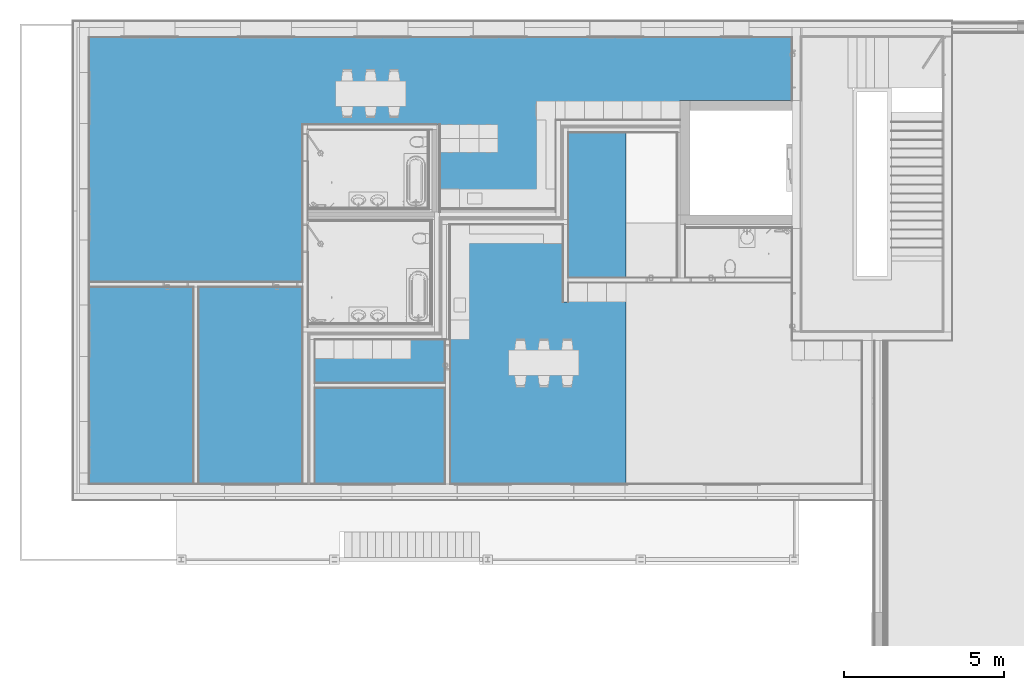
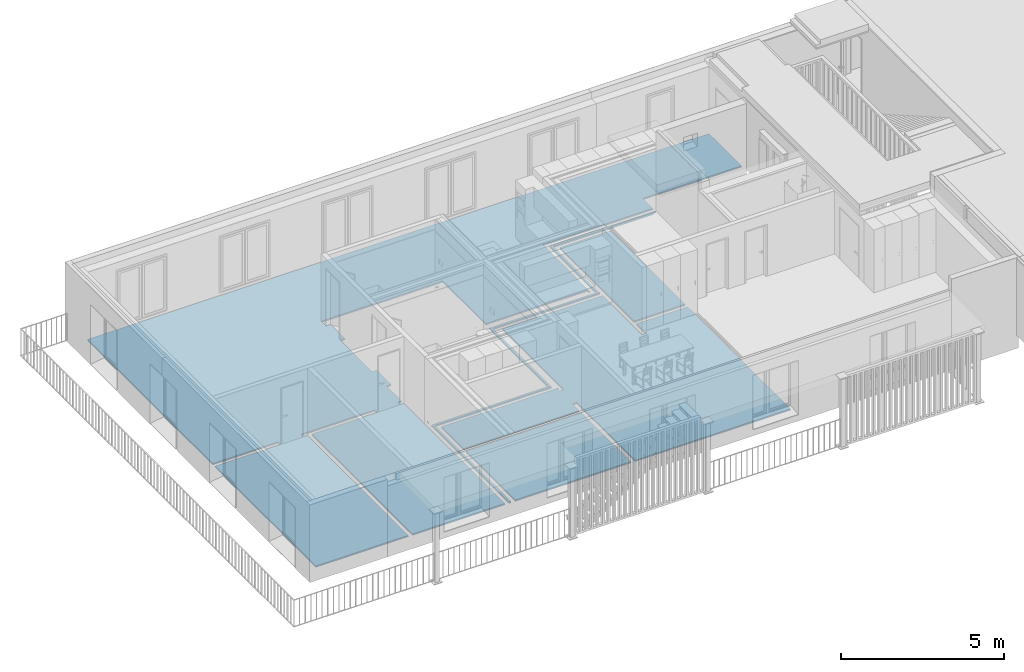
# One storey, part 7 of 34: 1 building element part, 1 element without a shape of its own.
"""IFC4 building model written with IfcOpenShell, lengths in millimetres."""

from ifc_helpers import new_model, entity, si_unit, converted_unit, derived_unit, direction, frame, origin_with_axes, place, context, subcontext, project, spatial, polygons, material, type_object, element, aggregate, save


model = new_model("IFC4")

# Units and contexts
model_context = context("Model", 3, precision=0.01, world=origin_with_axes(), true_north=direction((0.0, 1.0)))
body_context = subcontext(model_context, "Body", "Model", "MODEL_VIEW")
ifc_project = project(units=[si_unit("LENGTHUNIT", "METRE", prefix="MILLI"), si_unit("AREAUNIT", "SQUARE_METRE"), si_unit("VOLUMEUNIT", "CUBIC_METRE"), converted_unit("PLANEANGLEUNIT", "DEGREE", entity("IfcPlaneAngleMeasure", 0.0174532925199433), si_unit("PLANEANGLEUNIT", "RADIAN"), dimensions=[0, 0, 0, 0, 0, 0, 0]), converted_unit("TIMEUNIT", "Year", entity("IfcTimeMeasure", 31557600.0), si_unit("TIMEUNIT", "SECOND"), dimensions=[0, 0, 1, 0, 0, 0, 0]), si_unit("MASSUNIT", "GRAM", prefix="KILO"), si_unit("THERMODYNAMICTEMPERATUREUNIT", "DEGREE_CELSIUS"), si_unit("LUMINOUSINTENSITYUNIT", "LUMEN"), si_unit("ENERGYUNIT", "JOULE", prefix="MEGA"), derived_unit("THERMALCONDUCTANCEUNIT", [(si_unit("POWERUNIT", "WATT"), 1), (si_unit("LENGTHUNIT", "METRE"), -1), (si_unit("THERMODYNAMICTEMPERATUREUNIT", "KELVIN"), -1)]), derived_unit("SPECIFICHEATCAPACITYUNIT", [(si_unit("ENERGYUNIT", "JOULE"), 1), (si_unit("MASSUNIT", "GRAM", prefix="KILO"), -1), (si_unit("THERMODYNAMICTEMPERATUREUNIT", "KELVIN"), -1)]), derived_unit("MASSDENSITYUNIT", [(si_unit("MASSUNIT", "GRAM", prefix="KILO"), 1), (si_unit("VOLUMEUNIT", "CUBIC_METRE"), -1)])], contexts=[model_context])

# Site, building, storey
site_placement = place(None, origin_with_axes())
site = spatial("IfcSite", under=ifc_project, at=site_placement, Name="Gelände", CompositionType="ELEMENT")
building_placement = place(site_placement, origin_with_axes())
building = spatial("IfcBuilding", under=site, at=building_placement, Name="Gebäude", CompositionType="ELEMENT")
storey_placement = place(building_placement, frame((0.0, 0.0, 5799.999999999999), z_axis=(0.0, 0.0, 1.0), x_axis=(1.0, 0.0, 0.0)))
storey = spatial("IfcBuildingStorey", under=building, at=storey_placement, Name="2.OG", CompositionType="ELEMENT", Elevation=5800.0)

# Covering, building element part
covering_type = type_object("IfcCoveringType", Name="Bodenaufbau Typ 01 150", PredefinedType="NOTDEFINED")
covering_placement = place(storey_placement, frame((-6561.004181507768, 23457.59674077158, 0.0), z_axis=(0.0, 0.0, 1.0), x_axis=(1.0, 0.0, 0.0)))
covering = element("IfcCovering", 1, at=covering_placement, inside=storey, type_object=covering_type, Name="Decke-007", PredefinedType="NOTDEFINED")
ifc_material = material(Name="Unterlagsboden")
building_element_part_placement = place(covering_placement, origin_with_axes())
building_element_part = element("IfcBuildingElementPart", 2, at=building_element_part_placement, material=ifc_material, Name="Unterlagsboden", PredefinedType="NOTDEFINED", context=body_context, shape_type="Tessellation", body=[
    polygons([(16790.00162627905, 11000.00054054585, 80.00000000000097), (16790.00162627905, 11000.00054054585, 135.0000000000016), (16790.00162627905, 6450.000540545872, 135.0000000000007), (16790.00162627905, 6450.000540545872, 80.00000000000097), (14980.00162627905, 11000.00054054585, 135.0000000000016), (14980.00162627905, 11000.00054054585, 80.00000000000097), (14980.00162627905, 8275.000540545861, 135.0000000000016), (14980.00162627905, 8125.000540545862, 135.0000000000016), (14980.00162627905, 6450.000540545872, 135.0000000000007), (14980.00162627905, 6450.000540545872, 80.00000000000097), (14980.00162627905, 8125.000540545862, 80.00000000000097), (14980.00162627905, 8275.000540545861, 80.00000000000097)], [[[1, 2, 3, 4]], [[5, 2, 1, 6]], [[2, 5, 7, 8, 9, 3]], [[9, 10, 4, 3]], [[6, 1, 4, 10, 11, 12]], [[5, 6, 12, 7]], [[7, 12, 11, 8]], [[8, 11, 10, 9]]], closed=True),
    polygons([(10621.77773059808, 8610.000540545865, 135.0000000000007), (10621.77773059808, 8620.000540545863, 135.0000000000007), (10611.77773059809, 8620.000540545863, 135.0000000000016), (10611.77773059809, 8610.000540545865, 135.0000000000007), (10621.77773059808, 8620.000540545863, 80.00000000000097), (10621.77773059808, 8610.000540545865, 80.00000000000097), (10611.77773059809, 8620.000540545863, 80.00000000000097), (10611.77773059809, 8610.000540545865, 80.00000000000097)], [[[1, 2, 3, 4]], [[5, 2, 1, 6]], [[2, 5, 7, 3]], [[3, 7, 8, 4]], [[6, 1, 4, 8]], [[5, 6, 8, 7]]], closed=True),
    polygons([(3420.000000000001, 6167.487519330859, 135.0000000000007), (3420.000000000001, 0.0, 135.0000000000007), (6683.999999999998, 0.0, 135.0000000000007), (6683.999999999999, 4756.776644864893, 135.0000000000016), (6683.999999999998, 4906.776644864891, 135.0000000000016), (6683.999999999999, 6167.487519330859, 135.0000000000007), (6534.0, 6167.487519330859, 135.0000000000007), (6534.0, 6317.487519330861, 135.0000000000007), (6683.999999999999, 6317.487519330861, 135.0000000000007), (6683.999999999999, 7245.000540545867, 135.0000000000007), (6843.999999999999, 7245.000540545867, 135.0000000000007), (6843.999999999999, 8135.000540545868, 135.0000000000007), (6683.999999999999, 8135.000540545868, 135.0000000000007), (6684.0, 10081.46696329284, 135.0000000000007), (6844.0, 10081.46696329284, 135.0000000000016), (6844.0, 10971.46696329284, 135.0000000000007), (6684.0, 10971.46696329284, 135.0000000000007), (6684.0, 11236.46696329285, 135.0000000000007), (6834.000000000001, 11236.46696329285, 135.0000000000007), (10876.77773059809, 11236.46696329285, 135.0000000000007), (10876.77773059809, 11246.46696329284, 135.0000000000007), (10981.77773059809, 11246.46696329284, 135.0000000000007), (10981.77773059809, 8610.000540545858, 135.0000000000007), (14590.00162627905, 8610.000540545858, 135.0000000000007), (14590.00162627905, 8505.000540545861, 135.0000000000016), (14600.00162627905, 8505.000540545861, 135.0000000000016), (14600.00162627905, 11380.00054054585, 135.0000000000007), (14750.00162627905, 11380.00054054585, 135.0000000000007), (18490.00162627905, 11380.00054054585, 135.0000000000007), (18490.00162627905, 11990.00054054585, 135.0000000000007), (21980.00162627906, 11990.00054054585, 135.0000000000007), (21980.00162627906, 13980.00054054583, 135.0000000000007), (0.0, 13980.00054054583, 135.0000000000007), (0.0, 6317.487519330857, 135.0000000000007), (2310.000000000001, 6317.487519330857, 135.0000000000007), (2310.000000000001, 6167.487519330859, 135.0000000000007), (0.0, 6167.487519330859, 135.0000000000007), (0.0, 0.0, 135.0000000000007), (3270.0, 0.0, 135.0000000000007), (3270.0, 6167.487519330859, 135.0000000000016), (3110.000000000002, 6167.487519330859, 135.0000000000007), (3110.000000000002, 6317.487519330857, 135.0000000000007), (5733.999999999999, 6317.487519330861, 135.0000000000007), (5733.999999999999, 6167.487519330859, 135.0000000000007), (3420.000000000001, 6167.487519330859, 80.00000000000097), (3420.000000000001, 0.0, 80.00000000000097), (6683.999999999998, 0.0, 80.00000000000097), (6683.999999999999, 4756.776644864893, 80.00000000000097), (6683.999999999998, 4906.776644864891, 80.00000000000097), (6683.999999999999, 6167.487519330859, 80.00000000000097), (6534.0, 6167.487519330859, 80.00000000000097), (6534.0, 6317.487519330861, 80.00000000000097), (6683.999999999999, 6317.487519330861, 80.00000000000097), (6683.999999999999, 7245.000540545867, 80.00000000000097), (6843.999999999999, 7245.000540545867, 80.00000000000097), (6843.999999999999, 8135.000540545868, 80.00000000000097), (6683.999999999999, 8135.000540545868, 80.00000000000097), (6684.0, 10081.46696329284, 80.00000000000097), (6844.0, 10081.46696329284, 80.00000000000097), (6844.0, 10971.46696329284, 80.00000000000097), (6684.0, 10971.46696329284, 80.00000000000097), (6684.0, 11236.46696329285, 80.00000000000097), (6834.000000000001, 11236.46696329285, 80.00000000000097), (10876.77773059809, 11236.46696329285, 80.00000000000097), (10876.77773059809, 11246.46696329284, 80.00000000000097), (10981.77773059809, 11246.46696329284, 80.00000000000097), (10981.77773059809, 8610.000540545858, 80.00000000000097), (14590.00162627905, 8610.000540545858, 80.00000000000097), (14590.00162627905, 8505.000540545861, 80.00000000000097), (14600.00162627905, 8505.000540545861, 80.00000000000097), (14600.00162627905, 11380.00054054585, 80.00000000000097), (14750.00162627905, 11380.00054054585, 80.00000000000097), (18490.00162627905, 11380.00054054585, 80.00000000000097), (18490.00162627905, 11990.00054054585, 80.00000000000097), (21980.00162627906, 11990.00054054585, 80.00000000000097), (21980.00162627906, 13980.00054054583, 80.00000000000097), (0.0, 13980.00054054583, 80.00000000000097), (0.0, 6317.487519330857, 80.00000000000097), (2310.000000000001, 6317.487519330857, 80.00000000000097), (2310.000000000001, 6167.487519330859, 80.00000000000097), (0.0, 6167.487519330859, 80.00000000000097), (0.0, 0.0, 80.00000000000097), (3270.0, 0.0, 80.00000000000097), (3270.0, 6167.487519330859, 80.00000000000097), (3110.000000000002, 6167.487519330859, 80.00000000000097), (3110.000000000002, 6317.487519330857, 80.00000000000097), (5733.999999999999, 6317.487519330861, 80.00000000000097), (5733.999999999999, 6167.487519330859, 80.00000000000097)], [[[1, 2, 3, 4, 5, 6, 7, 8, 9, 10, 11, 12, 13, 14, 15, 16, 17, 18, 19, 20, 21, 22, 23, 24, 25, 26, 27, 28, 29, 30, 31, 32, 33, 34, 35, 36, 37, 38, 39, 40, 41, 42, 43, 44]], [[2, 1, 45, 46]], [[2, 46, 47, 3]], [[48, 4, 3, 47]], [[4, 48, 49, 5]], [[5, 49, 50, 6]], [[6, 50, 51, 7]], [[8, 7, 51, 52]], [[53, 9, 8, 52]], [[10, 9, 53, 54]], [[11, 10, 54, 55]], [[11, 55, 56, 12]], [[57, 13, 12, 56]], [[14, 13, 57, 58]], [[15, 14, 58, 59]], [[15, 59, 60, 16]], [[61, 17, 16, 60]], [[18, 17, 61, 62]], [[63, 19, 18, 62]], [[64, 20, 19, 63]], [[21, 20, 64, 65]], [[66, 22, 21, 65]], [[23, 22, 66, 67]], [[23, 67, 68, 24]], [[24, 68, 69, 25]], [[25, 69, 70, 26]], [[26, 70, 71, 27]], [[72, 28, 27, 71]], [[28, 72, 73, 29]], [[29, 73, 74, 30]], [[74, 75, 31, 30]], [[75, 76, 32, 31]], [[76, 77, 33, 32]], [[78, 34, 33, 77]], [[35, 34, 78, 79]], [[36, 35, 79, 80]], [[37, 36, 80, 81]], [[37, 81, 82, 38]], [[83, 39, 38, 82]], [[84, 40, 39, 83]], [[40, 84, 85, 41]], [[42, 41, 85, 86]], [[43, 42, 86, 87]], [[44, 43, 87, 88]], [[45, 1, 44, 88]], [[46, 45, 88, 87, 86, 85, 84, 83, 82, 81, 80, 79, 78, 77, 76, 75, 74, 73, 72, 71, 70, 69, 68, 67, 66, 65, 64, 63, 62, 61, 60, 59, 58, 57, 56, 55, 54, 53, 52, 51, 50, 49, 48, 47]]], closed=True),
    polygons([(10726.77773059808, 11076.46696329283, 135.0000000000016), (10726.77773059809, 11086.46696329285, 135.0000000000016), (10611.77773059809, 11086.46696329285, 135.0000000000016), (10611.77773059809, 11076.46696329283, 135.0000000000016), (10726.77773059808, 11076.46696329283, 80.00000000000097), (10726.77773059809, 11086.46696329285, 80.00000000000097), (10611.77773059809, 11086.46696329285, 80.00000000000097), (10611.77773059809, 11076.46696329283, 80.00000000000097)], [[[1, 2, 3, 4]], [[1, 5, 6, 2]], [[2, 6, 7, 3]], [[8, 4, 3, 7]], [[5, 1, 4, 8]], [[5, 8, 7, 6]]], closed=True),
    polygons([(10702.0, 8240.000540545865, 135.0000000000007), (10702.0, 8250.000540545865, 135.0000000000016), (10692.0, 8250.000540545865, 135.0000000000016), (10692.0, 8240.000540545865, 135.0000000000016), (10702.0, 8250.000540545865, 80.00000000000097), (10702.0, 8240.000540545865, 80.00000000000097), (10692.0, 8250.000540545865, 80.00000000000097), (10692.0, 8240.000540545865, 80.00000000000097)], [[[1, 2, 3, 4]], [[5, 2, 1, 6]], [[2, 5, 7, 3]], [[8, 4, 3, 7]], [[6, 1, 4, 8]], [[5, 6, 8, 7]]], closed=True),
    polygons([(6903.99998159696, 0.0, 135.0000000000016), (6903.99998159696, 4526.776644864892, 135.0000000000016), (6903.99998159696, 4676.776644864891, 135.0000000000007), (11037.0, 4676.776644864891, 135.0000000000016), (11037.0, 8125.000540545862, 135.0000000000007), (11037.0, 8275.000540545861, 135.0000000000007), (14830.00162627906, 8275.000540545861, 135.0000000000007), (14830.00162627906, 11150.00054054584, 135.0000000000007), (14980.00162627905, 11150.00054054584, 135.0000000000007), (18385.00162627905, 11150.00054054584, 135.0000000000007), (18385.00162627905, 11190.00054054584, 135.0000000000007), (18490.00162627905, 11190.00054054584, 135.0000000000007), (18490.00162627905, 11230.00054054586, 135.0000000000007), (14750.00162627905, 11230.00054054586, 135.0000000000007), (14750.00162627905, 8355.000540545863, 135.0000000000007), (14600.00162627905, 8355.000540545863, 135.0000000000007), (10957.0, 8355.000540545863, 135.0000000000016), (10957.0, 4756.776644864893, 135.0000000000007), (10807.0, 4756.776644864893, 135.0000000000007), (6833.999999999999, 4756.776644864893, 135.0000000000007), (6833.999999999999, 0.0, 135.0000000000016), (6903.99998159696, 4526.776644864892, 80.00000000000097), (6903.99998159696, 0.0, 80.00000000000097), (6903.99998159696, 4676.776644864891, 80.00000000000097), (11037.0, 4676.776644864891, 80.00000000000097), (11037.0, 8125.000540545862, 80.00000000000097), (11037.0, 8275.000540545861, 80.00000000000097), (14830.00162627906, 8275.000540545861, 80.00000000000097), (14830.00162627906, 11150.00054054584, 80.00000000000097), (14980.00162627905, 11150.00054054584, 80.00000000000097), (18385.00162627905, 11150.00054054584, 80.00000000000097), (18385.00162627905, 11190.00054054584, 80.00000000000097), (18490.00162627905, 11190.00054054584, 80.00000000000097), (18490.00162627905, 11230.00054054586, 80.00000000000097), (14750.00162627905, 11230.00054054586, 80.00000000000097), (14750.00162627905, 8355.000540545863, 80.00000000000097), (14600.00162627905, 8355.000540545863, 80.00000000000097), (10957.0, 8355.000540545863, 80.00000000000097), (10957.0, 4756.776644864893, 80.00000000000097), (10807.0, 4756.776644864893, 80.00000000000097), (6833.999999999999, 4756.776644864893, 80.00000000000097), (6833.999999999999, 0.0, 80.00000000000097)], [[[1, 2, 3, 4, 5, 6, 7, 8, 9, 10, 11, 12, 13, 14, 15, 16, 17, 18, 19, 20, 21]], [[22, 2, 1, 23]], [[2, 22, 24, 3]], [[25, 4, 3, 24]], [[4, 25, 26, 5]], [[5, 26, 27, 6]], [[28, 7, 6, 27]], [[8, 7, 28, 29]], [[30, 9, 8, 29]], [[10, 9, 30, 31]], [[11, 10, 31, 32]], [[33, 12, 11, 32]], [[12, 33, 34, 13]], [[35, 14, 13, 34]], [[15, 14, 35, 36]], [[37, 16, 15, 36]], [[17, 16, 37, 38]], [[17, 38, 39, 18]], [[40, 19, 18, 39]], [[41, 20, 19, 40]], [[21, 20, 41, 42]], [[23, 1, 21, 42]], [[22, 23, 42, 41, 40, 39, 38, 37, 36, 35, 34, 33, 32, 31, 30, 29, 28, 27, 26, 25, 24]]], closed=True),
    polygons([(11142.0, 3010.000000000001, 80.00000000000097), (11142.0, 3010.000000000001, 135.0000000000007), (11142.0, 0.0, 135.0000000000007), (11142.0, 0.0, 80.00000000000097), (7053.99998159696, 3010.000000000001, 135.0000000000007), (7053.99998159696, 3010.000000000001, 80.00000000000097), (7053.99998159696, 0.0, 135.0000000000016), (7053.99998159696, 0.0, 80.00000000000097)], [[[1, 2, 3, 4]], [[5, 2, 1, 6]], [[2, 5, 7, 3]], [[4, 3, 7, 8]], [[6, 1, 4, 8]], [[5, 6, 8, 7]]], closed=True),
    polygons([(6843.999999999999, 4906.776644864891, 135.0000000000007), (6843.999999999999, 5021.77664486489, 135.0000000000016), (6833.999999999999, 5021.77664486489, 135.0000000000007), (6833.999999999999, 4906.776644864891, 135.0000000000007), (6843.999999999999, 4906.776644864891, 80.00000000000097), (6843.999999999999, 5021.77664486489, 80.00000000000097), (6833.999999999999, 5021.77664486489, 80.00000000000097), (6833.999999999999, 4906.776644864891, 80.00000000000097)], [[[1, 2, 3, 4]], [[2, 1, 5, 6]], [[2, 6, 7, 3]], [[8, 4, 3, 7]], [[5, 1, 4, 8]], [[5, 8, 7, 6]]], closed=True),
    polygons([(7053.99998159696, 3160.0, 135.0000000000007), (11142.0, 3160.0, 135.0000000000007), (11142.0, 3566.776644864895, 135.0000000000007), (11292.0, 3566.776644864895, 135.0000000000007), (11292.0, 0.0, 135.0000000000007), (16790.00162627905, 0.0, 135.0000000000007), (16790.00162627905, 6300.000540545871, 135.0000000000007), (14980.00162627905, 6300.000540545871, 135.0000000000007), (14980.00162627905, 5692.00054054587, 135.0000000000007), (14830.00162627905, 5692.00054054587, 135.0000000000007), (14830.00162627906, 8125.000540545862, 135.0000000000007), (11292.0, 8125.000540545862, 135.0000000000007), (11292.0, 4366.776644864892, 135.0000000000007), (11142.0, 4366.776644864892, 135.0000000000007), (11142.0, 4516.776644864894, 135.0000000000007), (11187.0, 4516.776644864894, 135.0000000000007), (11187.0, 4526.776644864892, 135.0000000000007), (11037.0, 4526.776644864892, 135.0000000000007), (7053.999981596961, 4526.776644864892, 135.0000000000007), (11142.0, 3160.0, 80.00000000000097), (7053.99998159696, 3160.0, 80.00000000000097), (11142.0, 3566.776644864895, 80.00000000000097), (11292.0, 3566.776644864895, 80.00000000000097), (11292.0, 0.0, 80.00000000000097), (16790.00162627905, 0.0, 80.00000000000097), (16790.00162627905, 6300.000540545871, 80.00000000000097), (14980.00162627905, 6300.000540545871, 80.00000000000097), (14980.00162627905, 5692.00054054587, 80.00000000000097), (14830.00162627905, 5692.00054054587, 80.00000000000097), (14830.00162627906, 8125.000540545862, 80.00000000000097), (11292.0, 8125.000540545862, 80.00000000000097), (11292.0, 4366.776644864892, 80.00000000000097), (11142.0, 4366.776644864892, 80.00000000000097), (11142.0, 4516.776644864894, 80.00000000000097), (11187.0, 4516.776644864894, 80.00000000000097), (11187.0, 4526.776644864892, 80.00000000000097), (11037.0, 4526.776644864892, 80.00000000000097), (7053.999981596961, 4526.776644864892, 80.00000000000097)], [[[1, 2, 3, 4, 5, 6, 7, 8, 9, 10, 11, 12, 13, 14, 15, 16, 17, 18, 19]], [[20, 2, 1, 21]], [[2, 20, 22, 3]], [[4, 3, 22, 23]], [[5, 4, 23, 24]], [[5, 24, 25, 6]], [[26, 7, 6, 25]], [[27, 8, 7, 26]], [[9, 8, 27, 28]], [[10, 9, 28, 29]], [[30, 11, 10, 29]], [[31, 12, 11, 30]], [[31, 32, 13, 12]], [[14, 13, 32, 33]], [[15, 14, 33, 34]], [[35, 16, 15, 34]], [[16, 35, 36, 17]], [[37, 18, 17, 36]], [[38, 19, 18, 37]], [[21, 1, 19, 38]], [[20, 21, 38, 37, 36, 35, 34, 33, 32, 31, 30, 29, 28, 27, 26, 25, 24, 23, 22]]], closed=True),
])
aggregate(covering, [building_element_part])

save(model, "model.ifc")
